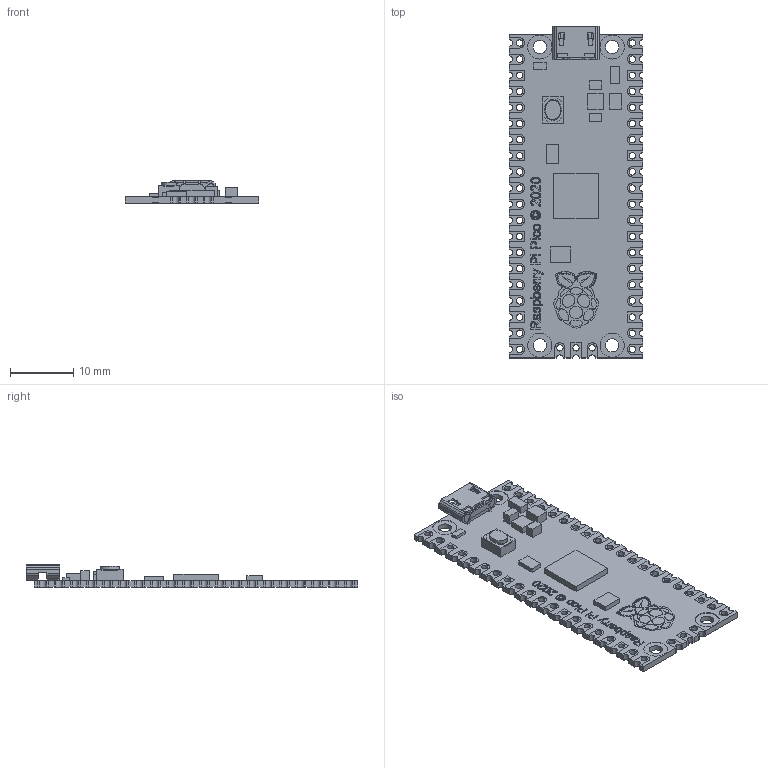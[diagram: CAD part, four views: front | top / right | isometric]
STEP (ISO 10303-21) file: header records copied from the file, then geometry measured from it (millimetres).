
FILE_DESCRIPTION(/* description */ (''),/* implementation_level */ '2;1');
FILE_NAME(/* name */ '',/* time_stamp */ '2023-12-31T10:59:32+10:00',/* author */ (''),/* organization */ (''),/* preprocessor_version */ 'ST-DEVELOPER v20',/* originating_system */ 'Autodesk Translation Framework v12.14.0.127',/* authorisation */ '');
FILE_SCHEMA (('AUTOMOTIVE_DESIGN { 1 0 10303 214 3 1 1 }'));
Products named in the file (1): распбери пико
Bounding box: 21 x 52.3 x 3.5 mm (x, y, z)
Volume: 1159.3 mm3; surface area: 3595.9 mm2
Topology: 86 solids, 86 shells, 1375 faces, 3608 edges, 2402 vertices
Faces by surface type: plane 763, bspline 371, cylinder 241
Full cylindrical faces by diameter (mm): 1 x44, 2.1 x4, 3.8 x8
Entity records: 51271 total; most frequent: CARTESIAN_POINT 19145, ORIENTED_EDGE 7216, DIRECTION 5356, EDGE_CURVE 3608, VERTEX_POINT 2402, LINE 2374, VECTOR 2374, EDGE_LOOP 1538
